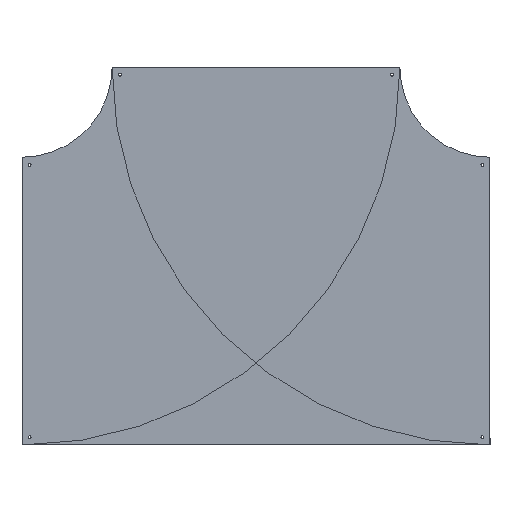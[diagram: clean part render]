
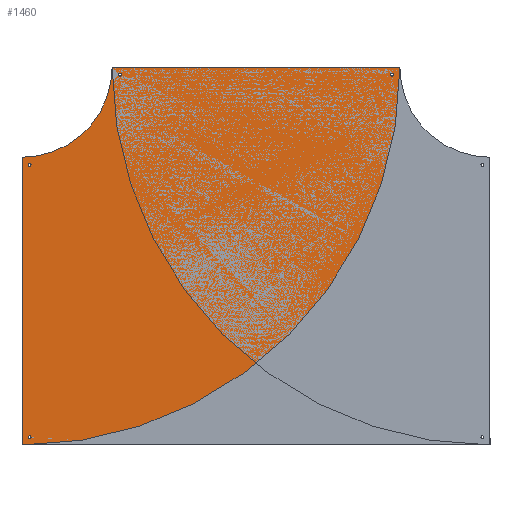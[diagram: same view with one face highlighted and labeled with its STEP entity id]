
A CAD part, top view. The second image highlights one B-rep face of the part: STEP entity #1460.
In plain terms, the highlighted planar face has unit normal (0, 0, 1).
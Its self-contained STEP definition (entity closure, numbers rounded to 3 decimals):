
#89=FACE_BOUND('',#365,.T.);
#90=FACE_BOUND('',#366,.T.);
#91=FACE_BOUND('',#367,.T.);
#92=FACE_BOUND('',#368,.T.);
#149=CIRCLE('',#1604,1251.5);
#150=CIRCLE('',#1605,298.5);
#151=CIRCLE('',#1606,5.);
#152=CIRCLE('',#1607,5.);
#153=CIRCLE('',#1608,5.);
#154=CIRCLE('',#1609,5.);
#155=CIRCLE('',#1610,5.);
#156=CIRCLE('',#1611,5.);
#157=CIRCLE('',#1612,5.);
#158=CIRCLE('',#1613,5.);
#268=FACE_OUTER_BOUND('',#364,.T.);
#364=EDGE_LOOP('',(#1224,#1225,#1226,#1227));
#365=EDGE_LOOP('',(#1228,#1229));
#366=EDGE_LOOP('',(#1230,#1231));
#367=EDGE_LOOP('',(#1232,#1233));
#368=EDGE_LOOP('',(#1234,#1235));
#488=LINE('',#2427,#602);
#492=LINE('',#2436,#606);
#602=VECTOR('',#1972,304.8);
#606=VECTOR('',#1978,304.8);
#718=VERTEX_POINT('',#2425);
#719=VERTEX_POINT('',#2426);
#722=VERTEX_POINT('',#2434);
#723=VERTEX_POINT('',#2435);
#726=VERTEX_POINT('',#2445);
#727=VERTEX_POINT('',#2446);
#728=VERTEX_POINT('',#2449);
#729=VERTEX_POINT('',#2450);
#730=VERTEX_POINT('',#2453);
#731=VERTEX_POINT('',#2454);
#732=VERTEX_POINT('',#2457);
#733=VERTEX_POINT('',#2458);
#892=EDGE_CURVE('',#718,#719,#488,.T.);
#896=EDGE_CURVE('',#722,#723,#492,.T.);
#900=EDGE_CURVE('',#718,#723,#149,.T.);
#901=EDGE_CURVE('',#722,#719,#150,.T.);
#902=EDGE_CURVE('',#726,#727,#151,.T.);
#903=EDGE_CURVE('',#727,#726,#152,.T.);
#904=EDGE_CURVE('',#728,#729,#153,.T.);
#905=EDGE_CURVE('',#729,#728,#154,.T.);
#906=EDGE_CURVE('',#730,#731,#155,.T.);
#907=EDGE_CURVE('',#731,#730,#156,.T.);
#908=EDGE_CURVE('',#732,#733,#157,.T.);
#909=EDGE_CURVE('',#733,#732,#158,.T.);
#1224=ORIENTED_EDGE('',*,*,#892,.F.);
#1225=ORIENTED_EDGE('',*,*,#900,.T.);
#1226=ORIENTED_EDGE('',*,*,#896,.F.);
#1227=ORIENTED_EDGE('',*,*,#901,.T.);
#1228=ORIENTED_EDGE('',*,*,#902,.T.);
#1229=ORIENTED_EDGE('',*,*,#903,.T.);
#1230=ORIENTED_EDGE('',*,*,#904,.T.);
#1231=ORIENTED_EDGE('',*,*,#905,.T.);
#1232=ORIENTED_EDGE('',*,*,#906,.T.);
#1233=ORIENTED_EDGE('',*,*,#907,.T.);
#1234=ORIENTED_EDGE('',*,*,#908,.T.);
#1235=ORIENTED_EDGE('',*,*,#909,.T.);
#1396=PLANE('',#1603);
#1460=ADVANCED_FACE('',(#268,#89,#90,#91,#92),#1396,.T.);
#1603=AXIS2_PLACEMENT_3D('',#2442,#1982,#1983);
#1604=AXIS2_PLACEMENT_3D('',#2443,#1984,#1985);
#1605=AXIS2_PLACEMENT_3D('',#2444,#1986,#1987);
#1606=AXIS2_PLACEMENT_3D('',#2447,#1988,#1989);
#1607=AXIS2_PLACEMENT_3D('',#2448,#1990,#1991);
#1608=AXIS2_PLACEMENT_3D('',#2451,#1992,#1993);
#1609=AXIS2_PLACEMENT_3D('',#2452,#1994,#1995);
#1610=AXIS2_PLACEMENT_3D('',#2455,#1996,#1997);
#1611=AXIS2_PLACEMENT_3D('',#2456,#1998,#1999);
#1612=AXIS2_PLACEMENT_3D('',#2459,#2000,#2001);
#1613=AXIS2_PLACEMENT_3D('',#2460,#2002,#2003);
#1972=DIRECTION('',(0.,1.,0.));
#1978=DIRECTION('',(1.,0.,0.));
#1982=DIRECTION('center_axis',(0.,0.,1.));
#1983=DIRECTION('ref_axis',(0.,-1.,0.));
#1984=DIRECTION('center_axis',(0.,0.,1.));
#1985=DIRECTION('ref_axis',(0.,-1.,0.));
#1986=DIRECTION('center_axis',(0.,0.,-1.));
#1987=DIRECTION('ref_axis',(0.,-1.,0.));
#1988=DIRECTION('center_axis',(0.,0.,-1.));
#1989=DIRECTION('ref_axis',(1.,0.,0.));
#1990=DIRECTION('center_axis',(0.,0.,-1.));
#1991=DIRECTION('ref_axis',(1.,0.,0.));
#1992=DIRECTION('center_axis',(0.,0.,-1.));
#1993=DIRECTION('ref_axis',(1.,0.,0.));
#1994=DIRECTION('center_axis',(0.,0.,-1.));
#1995=DIRECTION('ref_axis',(1.,0.,0.));
#1996=DIRECTION('center_axis',(0.,0.,-1.));
#1997=DIRECTION('ref_axis',(1.,0.,0.));
#1998=DIRECTION('center_axis',(0.,0.,-1.));
#1999=DIRECTION('ref_axis',(1.,0.,0.));
#2000=DIRECTION('center_axis',(0.,0.,-1.));
#2001=DIRECTION('ref_axis',(1.,0.,0.));
#2002=DIRECTION('center_axis',(0.,0.,-1.));
#2003=DIRECTION('ref_axis',(1.,0.,0.));
#2425=CARTESIAN_POINT('',(-775.,-476.5,1.5));
#2426=CARTESIAN_POINT('',(-775.,476.5,1.5));
#2427=CARTESIAN_POINT('',(-775.,-476.5,1.5));
#2434=CARTESIAN_POINT('',(-476.5,775.,1.5));
#2435=CARTESIAN_POINT('',(476.5,775.,1.5));
#2436=CARTESIAN_POINT('',(-476.5,775.,1.5));
#2442=CARTESIAN_POINT('Origin',(-775.,775.,1.5));
#2443=CARTESIAN_POINT('Origin',(-775.,775.,1.5));
#2444=CARTESIAN_POINT('Origin',(-775.,775.,1.5));
#2445=CARTESIAN_POINT('',(-745.,-451.5,1.5));
#2446=CARTESIAN_POINT('',(-755.,-451.5,1.5));
#2447=CARTESIAN_POINT('Origin',(-750.,-451.5,1.5));
#2448=CARTESIAN_POINT('Origin',(-750.,-451.5,1.5));
#2449=CARTESIAN_POINT('',(-745.,451.5,1.5));
#2450=CARTESIAN_POINT('',(-755.,451.5,1.5));
#2451=CARTESIAN_POINT('Origin',(-750.,451.5,1.5));
#2452=CARTESIAN_POINT('Origin',(-750.,451.5,1.5));
#2453=CARTESIAN_POINT('',(-445.,750.,1.5));
#2454=CARTESIAN_POINT('',(-455.,750.,1.5));
#2455=CARTESIAN_POINT('Origin',(-450.,750.,1.5));
#2456=CARTESIAN_POINT('Origin',(-450.,750.,1.5));
#2457=CARTESIAN_POINT('',(455.,750.,1.5));
#2458=CARTESIAN_POINT('',(445.,750.,1.5));
#2459=CARTESIAN_POINT('Origin',(450.,750.,1.5));
#2460=CARTESIAN_POINT('Origin',(450.,750.,1.5));
